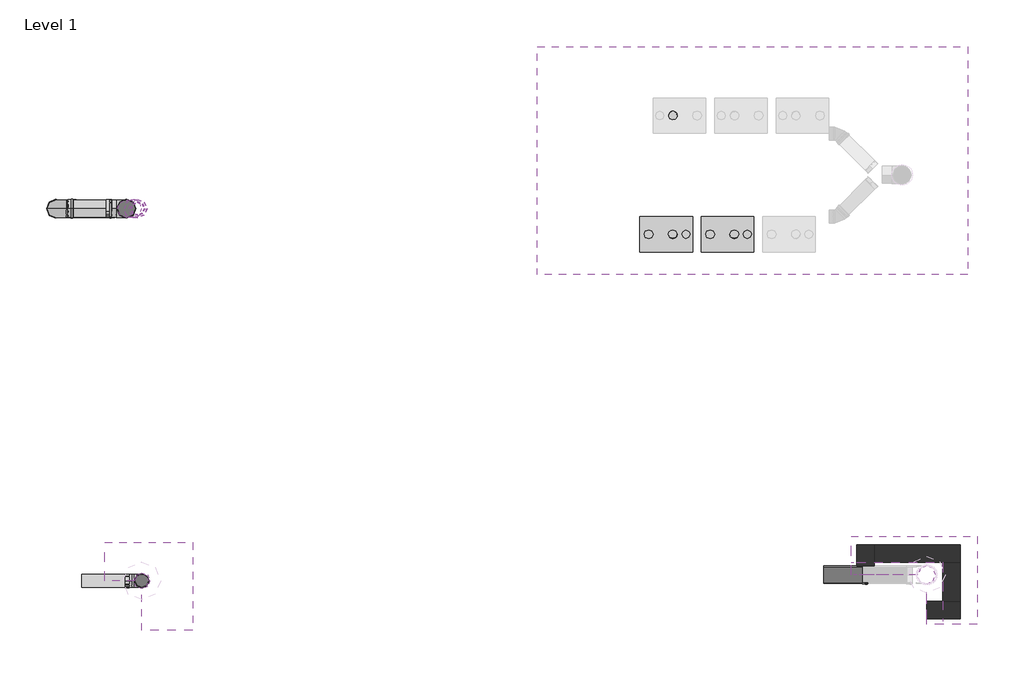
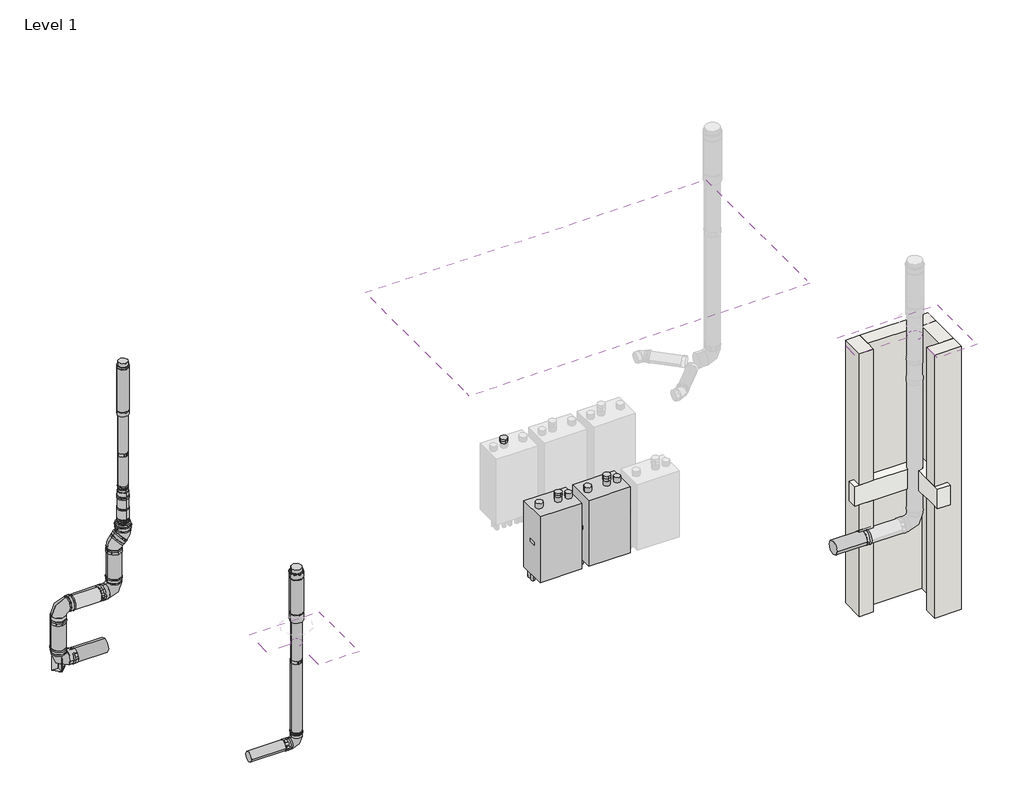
# One storey, part 1 of 2: 17 duct fittings, 4 walls, 3 duct segments, 3 roofs, 2 air terminals, 2 unitary equipment elements, 1 slab.
"""IFC4 building model written with IfcOpenShell, lengths in millimetres."""

from ifc_helpers import new_model, si_unit, point, frame, frame_2d, origin, place, context, project, spatial, polyline, circle_curve, ellipse_curve, trimmed, segment, composite_curve, outline, extrude, faceted_brep, transform, mapped, element, save
from ifc_brep_helpers import plane_surface, cylinder_surface, revolved_surface, advanced_brep
from components import air_terminal_94623e8e, air_terminal_eb749a6a, duct_fitting_fcce2ba4, duct_fitting_8dfe7da2, duct_fitting_345853f5, duct_fitting_ab07d6e0, duct_fitting_84fb14a7, duct_fitting_86b3afc8, duct_fitting_6345bc61, duct_fitting_f8f29cd0, duct_fitting_bf31f75c, duct_fitting_0e4c7d32, duct_fitting_4e1b977e, type_1_50a8d933

model = new_model("IFC4")

# Units and contexts
model_context = context("Model", 3, world=origin())
ifc_project = project(units=[si_unit("LENGTHUNIT", "METRE", prefix="MILLI")], contexts=[model_context])

# Site, building, storey
site = spatial("IfcSite", under=ifc_project)
building = spatial("IfcBuilding", under=site)
storey = spatial("IfcBuildingStorey", under=building, Name="Level 1", Elevation=0.0)

# Air terminals
placement = place(None, origin())
air_terminal_shape = air_terminal_94623e8e(model_context)
element("IfcAirTerminal", 1, ObjectType="RSFen_AIR_WPB_flue gas rooftop terminal_M&G : PP Black, ø130", at=placement, inside=storey, context=model_context, shape_type="MappedRepresentation", body=[
    mapped(air_terminal_shape, transform((-147.1567195, 6771.3861112, 3429.6005565), x_axis=(1.0, 0.0, 0.0), y_axis=(0.0, 1.0, 0.0), z_axis=(0.0, 0.0, 1.0))),
])
air_terminal_2_shape = air_terminal_eb749a6a(model_context)
element("IfcAirTerminal", 2, ObjectType="RSFen_AIR_WPB_flue gas rooftop terminal_M&G : PP Black, ø150", at=placement, inside=storey, context=model_context, shape_type="MappedRepresentation", body=[
    mapped(air_terminal_2_shape, transform((-100.8341645, 2531.0161204, 2850.0), x_axis=(1.0, 0.0, 0.0), y_axis=(0.0, 1.0, 0.0), z_axis=(0.0, 0.0, 1.0))),
])

# Duct fittings
duct_fitting_shape = duct_fitting_fcce2ba4(model_context)
element("IfcDuctFitting", 3, ObjectType="RSFen_DUF_UN_Twinline Supportbend_M&G : ø130 - 150 - 200", at=placement, inside=storey, context=model_context, shape_type="MappedRepresentation", body=[
    mapped(duct_fitting_shape, transform((-1077.8501537, 6771.3861112, 11.8802621), x_axis=(0.0, 0.0, -1.0), y_axis=(1.0, 0.0, 0.0), z_axis=(0.0, -1.0, 0.0))),
])
duct_fitting_2_shape = duct_fitting_8dfe7da2(model_context)
element("IfcDuctFitting", 4, ObjectType="RSFen_DUF_UN_Twinline Extension_M&G : ø130-150-200", at=placement, inside=storey, context=model_context, shape_type="MappedRepresentation", body=[
    mapped(duct_fitting_2_shape, transform((-411.1612493, 6771.3861112, 0.0), x_axis=(-1.0, 0.0, 0.0), y_axis=(0.0, 0.0, -1.0), z_axis=(0.0, -1.0, 0.0))),
])
element("IfcDuctFitting", 5, ObjectType="RSFen_DUF_UN_Twinline Extension_M&G : ø130-150-200", at=placement, inside=storey, context=model_context, shape_type="MappedRepresentation", body=[
    mapped(duct_fitting_2_shape, transform((-1077.8501537, 6771.3861112, 146.8802621), x_axis=(0.0, 0.0, 1.0), y_axis=(-1.0, 0.0, 0.0), z_axis=(0.0, -1.0, 0.0))),
])
element("IfcDuctFitting", 6, ObjectType="RSFen_DUF_UN_Twinline Extension_M&G : ø130-150-200", at=placement, inside=storey, context=model_context, shape_type="MappedRepresentation", body=[
    mapped(duct_fitting_2_shape, transform((-275.8501537, 6771.3861112, 948.8802621), x_axis=(0.0, 0.0, 1.0), y_axis=(-1.0, 0.0, 0.0), z_axis=(0.0, -1.0, 0.0))),
])
element("IfcDuctFitting", 7, ObjectType="RSFen_DUF_UN_Twinline Extension_M&G : ø130-150-200", at=placement, inside=storey, context=model_context, shape_type="MappedRepresentation", body=[
    mapped(duct_fitting_2_shape, transform((-942.8501537, 6771.3861112, 813.8802621), x_axis=(1.0, 0.0, 0.0), y_axis=(0.0, 0.0, -1.0), z_axis=(0.0, 1.0, 0.0))),
])
element("IfcDuctFitting", 8, ObjectType="RSFen_DUF_UN_Twinline Extension_M&G : ø130-150-200", at=placement, inside=storey, context=model_context, shape_type="MappedRepresentation", body=[
    mapped(duct_fitting_2_shape, transform((7666.4992982, 2600.0743938, 1178.3755805), x_axis=(1.0, 0.0, 0.0), y_axis=(0.0, 1.0, 0.0), z_axis=(0.0, 0.0, 1.0))),
])
duct_fitting_3_shape = duct_fitting_345853f5(model_context)
element("IfcDuctFitting", 9, ObjectType="RSFen_DUF_UN_Twinline Bend_M&G : ø130 - 150 - 200", at=placement, inside=storey, context=model_context, shape_type="MappedRepresentation", body=[
    mapped(duct_fitting_3_shape, transform((-1077.8501537, 6771.3861112, 813.8802621), x_axis=(0.0, 0.0, 1.0), y_axis=(1.0, 0.0, 0.0), z_axis=(0.0, 1.0, 0.0))),
])
element("IfcDuctFitting", 10, ObjectType="RSFen_DUF_UN_Twinline Bend_M&G : ø130 - 150 - 200", at=placement, inside=storey, context=model_context, shape_type="MappedRepresentation", body=[
    mapped(duct_fitting_3_shape, transform((-275.8501537, 6771.3861112, 813.8802621), x_axis=(1.0, 0.0, 0.0), y_axis=(0.0, 0.0, 1.0), z_axis=(0.0, -1.0, 0.0))),
])
duct_fitting_4_shape = duct_fitting_ab07d6e0(model_context)
element("IfcDuctFitting", 11, ObjectType="RSFen_DUF_UN_Twinline Bend_M&G : ø130 - 150 - 200", at=placement, inside=storey, context=model_context, shape_type="MappedRepresentation", body=[
    mapped(duct_fitting_4_shape, transform((-275.8501537, 6771.3861112, 1499.8802621), x_axis=(0.0, 0.0, 1.0), y_axis=(1.0, 0.0, 0.0), z_axis=(0.0, 1.0, 0.0))),
])
element("IfcDuctFitting", 12, ObjectType="RSFen_DUF_UN_Twinline Bend_M&G : ø130 - 150 - 200", at=placement, inside=storey, context=model_context, shape_type="MappedRepresentation", body=[
    mapped(duct_fitting_4_shape, transform((-147.1567195, 6771.3861112, 1628.5736962), x_axis=(0.707106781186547, 0.0, 0.707106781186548), y_axis=(-0.707106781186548, 0.0, 0.707106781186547), z_axis=(0.0, -1.0, 0.0))),
])
duct_fitting_5_shape = duct_fitting_84fb14a7(model_context)
element("IfcDuctFitting", 13, ObjectType="RSFen_DUF_UN_Twinline Reducer_M&G : ø080-100-150-200", at=placement, inside=storey, context=model_context, shape_type="MappedRepresentation", body=[
    mapped(duct_fitting_5_shape, transform((-147.1567195, 6771.3861112, 1699.5736962), x_axis=(0.0, 0.0, 1.0), y_axis=(-1.0, 0.0, 0.0), z_axis=(0.0, -1.0, 0.0))),
])
duct_fitting_6_shape = duct_fitting_86b3afc8(model_context)
element("IfcDuctFitting", 14, ObjectType="RSFen_DUF_UN_Twinline Adjuster_M&G : ø130-150", at=placement, inside=storey, context=model_context, shape_type="MappedRepresentation", body=[
    mapped(duct_fitting_6_shape, transform((-147.1567195, 6771.3861112, 1807.5736962), x_axis=(0.0, 0.0, 1.0), y_axis=(-1.0, 0.0, 0.0), z_axis=(0.0, -1.0, 0.0))),
])
duct_fitting_7_shape = duct_fitting_6345bc61(model_context)
element("IfcDuctFitting", 15, ObjectType="RSFen_DUF_UN_Twinline Reducer_M&G : ø080-100-150-200", at=placement, inside=storey, context=model_context, shape_type="MappedRepresentation", body=[
    mapped(duct_fitting_7_shape, transform((-147.1567195, 6771.3861112, 2161.4104027), x_axis=(0.0, 0.0, 1.0), y_axis=(-1.0, 0.0, 0.0), z_axis=(0.0, -1.0, 0.0))),
])
duct_fitting_8_shape = duct_fitting_f8f29cd0(model_context)
element("IfcDuctFitting", 16, ObjectType="RSFen_DUF_UN_Twinline Extension_M&G : ø130-150-200", at=placement, inside=storey, context=model_context, shape_type="MappedRepresentation", body=[
    mapped(duct_fitting_8_shape, transform((-147.1567195, 6771.3861112, 2312.4104027), x_axis=(0.0, 0.0, 1.0), y_axis=(-1.0, 0.0, 0.0), z_axis=(0.0, -1.0, 0.0))),
])
duct_fitting_9_shape = duct_fitting_bf31f75c(model_context)
element("IfcDuctFitting", 17, ObjectType="RSFen_DUF_UN_Twinline Extension_M&G : ø130-150-200", at=placement, inside=storey, context=model_context, shape_type="MappedRepresentation", body=[
    mapped(duct_fitting_9_shape, transform((-783.8341645, 2531.0161204, 1000.0370325), x_axis=(1.0, 0.0, 0.0), y_axis=(0.0, 1.0, 0.0), z_axis=(0.0, 0.0, 1.0))),
])
duct_fitting_10_shape = duct_fitting_0e4c7d32(model_context)
element("IfcDuctFitting", 18, ObjectType="RSFen_DUF_UN_Twinline Bend_M&G : ø130 - 150 - 200", at=placement, inside=storey, context=model_context, shape_type="MappedRepresentation", body=[
    mapped(duct_fitting_10_shape, transform((-100.8341645, 2531.0161204, 1000.0370325), x_axis=(1.0, 0.0, 0.0), y_axis=(0.0, 0.0, 1.0), z_axis=(0.0, -1.0, 0.0))),
])
duct_fitting_11_shape = duct_fitting_4e1b977e(model_context)
element("IfcDuctFitting", 19, ObjectType="RSFen_DUF_UN_Twinline Extension_M&G : ø130-150-200", at=placement, inside=storey, context=model_context, shape_type="MappedRepresentation", body=[
    mapped(duct_fitting_11_shape, transform((-100.8341645, 2531.0161204, 1126.0370325), x_axis=(0.0, 0.0, 1.0), y_axis=(-1.0, 0.0, 0.0), z_axis=(0.0, -1.0, 0.0))),
])

# Duct segments
element("IfcDuctSegment", 20, ObjectType="Flex - Round", at=placement, inside=storey, context=model_context, shape_type="AdvancedBrep", body=[
    advanced_brep(
    [(5896.5175995, 6480.135187, 225.0), (5946.2933643, 6530.3583528, 224.9172281), (5996.5165984, 6480.5826568, 225.0), (5946.7408335, 6430.359491, 225.0827719), (5896.5173851, 6480.1831014, 253.9439014), (5946.293186, 6530.4062674, 253.8611296), (5996.5163838, 6480.6306073, 253.9439014), (5946.7405831, 6430.4074052, 254.0266733), (5896.5303248, 6480.3204019, 282.9109259), (5946.7535876, 6430.5451242, 283.1244732), (5996.5293134, 6480.7677221, 282.8641168), (5946.3060506, 6530.5429998, 282.6505694)],
    [
        (0, 1, circle_curve(frame((5946.5170989, 6480.3589219, 225.0), z_axis=(7.407582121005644e-06, -0.0016554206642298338, -0.9999986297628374), x_axis=(-0.9999899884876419, -0.004474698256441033, 0.0)), 50.0)),
        (1, 2, circle_curve(frame((5946.5170989, 6480.3589219, 225.0), z_axis=(7.407582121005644e-06, -0.0016554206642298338, -0.9999986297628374), x_axis=(-0.9999899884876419, -0.004474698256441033, 0.0)), 50.0)),
        (2, 3, circle_curve(frame((5946.5170989, 6480.3589219, 225.0), z_axis=(7.407582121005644e-06, -0.0016554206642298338, -0.9999986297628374), x_axis=(-0.9999899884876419, -0.004474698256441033, 0.0)), 50.0)),
        (3, 0, circle_curve(frame((5946.5170989, 6480.3589219, 225.0), z_axis=(7.407582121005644e-06, -0.0016554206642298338, -0.9999986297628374), x_axis=(-0.9999899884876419, -0.004474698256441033, 0.0)), 50.0)),
        (0, 4),
        (4, 5, circle_curve(frame((5946.5168845, 6480.4068363, 253.9439014), z_axis=(7.407582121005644e-06, -0.0016554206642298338, -0.9999986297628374), x_axis=(-0.9999899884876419, -0.004474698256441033, 0.0)), 50.0)),
        (5, 1),
        (5, 6, circle_curve(frame((5946.5168845, 6480.4068363, 253.9439014), z_axis=(7.407582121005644e-06, -0.0016554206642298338, -0.9999986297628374), x_axis=(-0.9999899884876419, -0.004474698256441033, 0.0)), 50.0)),
        (6, 2),
        (6, 7, circle_curve(frame((5946.5168845, 6480.4068363, 253.9439014), z_axis=(7.407582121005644e-06, -0.0016554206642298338, -0.9999986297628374), x_axis=(-0.9999899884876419, -0.004474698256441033, 0.0)), 50.0)),
        (7, 3),
        (7, 4, circle_curve(frame((5946.5168845, 6480.4068363, 253.9439014), z_axis=(7.407582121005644e-06, -0.0016554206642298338, -0.9999986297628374), x_axis=(-0.9999899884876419, -0.004474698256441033, 0.0)), 50.0)),
        (8, 9, circle_curve(frame((5946.5298191, 6480.544062, 282.8875213), z_axis=(0.00044688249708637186, 0.004741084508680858, 0.999988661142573), x_axis=(-0.9999898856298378, -0.0044732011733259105, 0.0004680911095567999)), 50.0)),
        (9, 10, circle_curve(frame((5946.5298191, 6480.544062, 282.8875213), z_axis=(0.00044688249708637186, 0.004741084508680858, 0.999988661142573), x_axis=(-0.9999898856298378, -0.0044732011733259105, 0.0004680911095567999)), 50.0)),
        (10, 11, circle_curve(frame((5946.5298191, 6480.544062, 282.8875213), z_axis=(0.00044688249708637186, 0.004741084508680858, 0.999988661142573), x_axis=(-0.9999898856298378, -0.0044732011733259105, 0.0004680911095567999)), 50.0)),
        (11, 8, circle_curve(frame((5946.5298191, 6480.544062, 282.8875213), z_axis=(0.00044688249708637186, 0.004741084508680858, 0.999988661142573), x_axis=(-0.9999898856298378, -0.0044732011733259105, 0.0004680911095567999)), 50.0)),
        (4, 8),
        (11, 5),
        (10, 6),
        (9, 7),
    ],
    [
        plane_surface(frame((5946.5170989, 6430.3589904, 225.082771), z_axis=(7.407582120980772e-06, -0.001655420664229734, -0.9999986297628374), x_axis=(0.999999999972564, 1.226266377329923e-08, 7.407571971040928e-06))),
        cylinder_surface(frame((5946.5170989, 6480.3589219, 225.0), z_axis=(7.407582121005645e-06, -0.0016554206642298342, -0.9999986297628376), x_axis=(-0.9999899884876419, -0.004474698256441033, 0.0)), 50.0),
        plane_surface(frame((5946.5298191, 6430.544624, 283.1245756), z_axis=(0.00044688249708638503, 0.004741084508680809, 0.999988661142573), x_axis=(0.999999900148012, -2.118707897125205e-06, -0.0004468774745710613))),
        cylinder_surface(frame((5946.5168845, 6480.4068363, 253.9439014), z_axis=(-0.00044688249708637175, -0.004741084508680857, -0.9999886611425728), x_axis=(-0.9999898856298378, -0.0044732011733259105, 0.0004680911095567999)), 50.0),
    ],
    [
        (0, [[1, 2, 3, 4]]),
        (1, [[-1, 5, 6, 7]]),
        (1, [[-2, -7, 8, 9]]),
        (1, [[-3, -9, 10, 11]]),
        (1, [[-4, -11, 12, -5]]),
        (2, [[13, 14, 15, 16]]),
        (3, [[-6, 17, -16, 18]]),
        (3, [[-8, -18, -15, 19]]),
        (3, [[-10, -19, -14, 20]]),
        (3, [[-12, -20, -13, -17]]),
    ],
),
])
element("IfcDuctSegment", 21, ObjectType="Flex - Round", at=placement, inside=storey, context=model_context, shape_type="AdvancedBrep", body=[
    advanced_brep(
    [(6696.3633386, 6480.3589219, 224.9936438), (6646.3633456, 6430.3589485, 225.0515408), (6596.3633394, 6480.3589219, 225.0063562), (6646.3633325, 6530.3588953, 224.9484592), (6696.3679111, 6480.3959987, 260.962058), (6646.367883, 6430.3960253, 261.019955), (6596.3679119, 6480.3959637, 260.9747704), (6646.36794, 6530.3959722, 260.9168734), (6696.3888156, 6480.5440035, 296.9074077), (6646.3887628, 6530.5436384, 296.7306542), (6596.3888325, 6480.5441205, 296.9655492), (6646.3888852, 6430.5444856, 297.1423027)],
    [
        (0, 1, circle_curve(frame((6646.363339, 6480.3589219, 225.0), z_axis=(-0.000127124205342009, -0.001030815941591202, -0.9999994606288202), x_axis=(0.9999999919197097, 0.0, -0.00012712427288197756)), 50.0)),
        (1, 2, circle_curve(frame((6646.363339, 6480.3589219, 225.0), z_axis=(-0.000127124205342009, -0.001030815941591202, -0.9999994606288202), x_axis=(0.9999999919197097, 0.0, -0.00012712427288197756)), 50.0)),
        (2, 3, circle_curve(frame((6646.363339, 6480.3589219, 225.0), z_axis=(-0.000127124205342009, -0.001030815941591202, -0.9999994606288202), x_axis=(0.9999999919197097, 0.0, -0.00012712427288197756)), 50.0)),
        (3, 0, circle_curve(frame((6646.363339, 6480.3589219, 225.0), z_axis=(-0.000127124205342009, -0.001030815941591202, -0.9999994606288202), x_axis=(0.9999999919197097, 0.0, -0.00012712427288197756)), 50.0)),
        (0, 4),
        (4, 5, circle_curve(frame((6646.3679115, 6480.3959987, 260.9684142), z_axis=(-0.000127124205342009, -0.001030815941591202, -0.9999994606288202), x_axis=(0.9999999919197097, 0.0, -0.00012712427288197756)), 50.0)),
        (5, 1),
        (5, 6, circle_curve(frame((6646.3679115, 6480.3959987, 260.9684142), z_axis=(-0.000127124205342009, -0.001030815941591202, -0.9999994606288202), x_axis=(0.9999999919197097, 0.0, -0.00012712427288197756)), 50.0)),
        (6, 2),
        (6, 7, circle_curve(frame((6646.3679115, 6480.3959987, 260.9684142), z_axis=(-0.000127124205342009, -0.001030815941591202, -0.9999994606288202), x_axis=(0.9999999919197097, 0.0, -0.00012712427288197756)), 50.0)),
        (7, 3),
        (7, 4, circle_curve(frame((6646.3679115, 6480.3959987, 260.9684142), z_axis=(-0.000127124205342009, -0.001030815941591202, -0.9999994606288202), x_axis=(0.9999999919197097, 0.0, -0.00012712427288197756)), 50.0)),
        (8, 9, circle_curve(frame((6646.388824, 6480.544062, 296.9364785), z_axis=(0.0005814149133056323, 0.004116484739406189, 0.9999913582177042), x_axis=(0.9999998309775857, -1.1691909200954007e-06, -0.0005814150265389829)), 50.0)),
        (9, 10, circle_curve(frame((6646.388824, 6480.544062, 296.9364785), z_axis=(0.0005814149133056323, 0.004116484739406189, 0.9999913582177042), x_axis=(0.9999998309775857, -1.1691909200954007e-06, -0.0005814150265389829)), 50.0)),
        (10, 11, circle_curve(frame((6646.388824, 6480.544062, 296.9364785), z_axis=(0.0005814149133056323, 0.004116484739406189, 0.9999913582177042), x_axis=(0.9999998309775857, -1.1691909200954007e-06, -0.0005814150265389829)), 50.0)),
        (11, 8, circle_curve(frame((6646.388824, 6480.544062, 296.9364785), z_axis=(0.0005814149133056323, 0.004116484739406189, 0.9999913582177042), x_axis=(0.9999998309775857, -1.1691909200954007e-06, -0.0005814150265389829)), 50.0)),
        (4, 8),
        (11, 5),
        (10, 6),
        (9, 7),
    ],
    [
        plane_surface(frame((6646.363339, 6430.3589485, 225.0515408), z_axis=(-0.0001271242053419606, -0.001030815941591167, -0.9999994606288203), x_axis=(0.9999999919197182, -1.3104165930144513e-07, -0.00012712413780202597))),
        cylinder_surface(frame((6646.363339, 6480.3589219, 225.0), z_axis=(-0.000127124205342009, -0.001030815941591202, -0.9999994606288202), x_axis=(0.9999999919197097, 0.0, -0.00012712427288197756)), 50.0),
        plane_surface(frame((6646.388824, 6430.5444856, 297.1423027), z_axis=(0.0005814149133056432, 0.004116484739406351, 0.9999913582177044), x_axis=(0.9999998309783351, -2.393386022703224e-06, -0.0005814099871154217))),
        cylinder_surface(frame((6646.3679115, 6480.3959987, 260.9684142), z_axis=(-0.0005814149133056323, -0.004116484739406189, -0.9999913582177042), x_axis=(0.9999998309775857, -1.1691909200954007e-06, -0.0005814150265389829)), 50.0),
    ],
    [
        (0, [[1, 2, 3, 4]]),
        (1, [[-1, 5, 6, 7]]),
        (1, [[-2, -7, 8, 9]]),
        (1, [[-3, -9, 10, 11]]),
        (1, [[-4, -11, 12, -5]]),
        (2, [[13, 14, 15, 16]]),
        (3, [[-6, 17, -16, 18]]),
        (3, [[-8, -18, -15, 19]]),
        (3, [[-10, -19, -14, 20]]),
        (3, [[-12, -20, -13, -17]]),
    ],
),
])
element("IfcDuctSegment", 22, ObjectType="Flex - Round", at=placement, inside=storey, context=model_context, shape_type="AdvancedBrep", body=[
    advanced_brep(
    [(5997.1858741, 7824.0296158, 225.0), (5937.8078254, 7785.6348827, 224.6970154), (5899.4120021, 7845.0122265, 225.0), (5958.7900509, 7883.4069596, 225.3029846), (5997.1491935, 7823.8586931, 253.8481743), (5937.7712797, 7785.4645885, 253.4391195), (5899.3753124, 7844.8412612, 253.8553781), (5958.7532262, 7883.2353658, 254.2644329), (5997.0900216, 7823.5631569, 282.6957928), (5958.693822, 7882.9386692, 283.2253214), (5899.3161257, 7844.5456511, 282.7102002), (5937.7123253, 7785.1701389, 282.1806717)],
    [
        (0, 1, circle_curve(frame((5948.2989381, 7834.5209212, 225.0), z_axis=(0.0012714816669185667, 0.005924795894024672, -0.9999816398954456), x_axis=(0.9777387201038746, -0.20982610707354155, 0.0)), 50.0)),
        (1, 2, circle_curve(frame((5948.2989381, 7834.5209212, 225.0), z_axis=(0.0012714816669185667, 0.005924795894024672, -0.9999816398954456), x_axis=(0.9777387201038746, -0.20982610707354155, 0.0)), 50.0)),
        (2, 3, circle_curve(frame((5948.2989381, 7834.5209212, 225.0), z_axis=(0.0012714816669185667, 0.005924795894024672, -0.9999816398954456), x_axis=(0.9777387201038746, -0.20982610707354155, 0.0)), 50.0)),
        (3, 0, circle_curve(frame((5948.2989381, 7834.5209212, 225.0), z_axis=(0.0012714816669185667, 0.005924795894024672, -0.9999816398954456), x_axis=(0.9777387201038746, -0.20982610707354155, 0.0)), 50.0)),
        (0, 4),
        (4, 5, ellipse_curve(frame((5948.2622529, 7834.3499771, 253.8517762), z_axis=(0.0016612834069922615, 0.008084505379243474, -0.9999659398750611), x_axis=(-0.1776119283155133, -0.9840660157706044, -0.008251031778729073)), 50.0001204, 50.0)),
        (5, 1),
        (5, 6, ellipse_curve(frame((5948.2622529, 7834.3499771, 253.8517762), z_axis=(0.0016612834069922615, 0.008084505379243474, -0.9999659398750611), x_axis=(-0.1776119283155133, -0.9840660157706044, -0.008251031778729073)), 50.0001204, 50.0)),
        (6, 2),
        (6, 7, ellipse_curve(frame((5948.2622529, 7834.3499771, 253.8517762), z_axis=(0.0016612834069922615, 0.008084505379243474, -0.9999659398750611), x_axis=(-0.1776119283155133, -0.9840660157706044, -0.008251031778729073)), 50.0001204, 50.0)),
        (7, 3),
        (7, 4, ellipse_curve(frame((5948.2622529, 7834.3499771, 253.8517762), z_axis=(0.0016612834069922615, 0.008084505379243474, -0.9999659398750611), x_axis=(-0.1776119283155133, -0.9840660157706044, -0.008251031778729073)), 50.0001204, 50.0)),
        (8, 9, circle_curve(frame((5948.2030736, 7834.054404, 282.7029965), z_axis=(-0.002051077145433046, -0.010244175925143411, 0.9999454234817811), x_axis=(0.9777389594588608, -0.209824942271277, -0.00014407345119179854)), 50.0)),
        (9, 10, circle_curve(frame((5948.2030736, 7834.054404, 282.7029965), z_axis=(-0.002051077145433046, -0.010244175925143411, 0.9999454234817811), x_axis=(0.9777389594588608, -0.209824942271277, -0.00014407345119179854)), 50.0)),
        (10, 11, circle_curve(frame((5948.2030736, 7834.054404, 282.7029965), z_axis=(-0.002051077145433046, -0.010244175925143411, 0.9999454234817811), x_axis=(0.9777389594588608, -0.209824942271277, -0.00014407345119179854)), 50.0)),
        (11, 8, circle_curve(frame((5948.2030736, 7834.054404, 282.7029965), z_axis=(-0.002051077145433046, -0.010244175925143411, 0.9999454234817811), x_axis=(0.9777389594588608, -0.209824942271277, -0.00014407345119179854)), 50.0)),
        (4, 8),
        (11, 5),
        (10, 6),
        (9, 7),
    ],
    [
        plane_surface(frame((5948.2989381, 7784.5217988, 224.70376), z_axis=(0.0012714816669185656, 0.005924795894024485, -0.9999816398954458), x_axis=(0.9999991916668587, -7.533275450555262e-06, 0.0012714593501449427))),
        cylinder_surface(frame((5948.2989381, 7834.5209212, 225.0), z_axis=(0.001271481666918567, 0.005924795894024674, -0.9999816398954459), x_axis=(0.9777387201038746, -0.20982610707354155, 0.0)), 50.0),
        plane_surface(frame((5948.2030736, 7784.0570277, 282.1907866), z_axis=(-0.002051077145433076, -0.010244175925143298, 0.999945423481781), x_axis=(0.9999978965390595, -2.1011639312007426e-05, 0.0020509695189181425))),
        cylinder_surface(frame((5948.2622529, 7834.3499771, 253.8517762), z_axis=(0.002051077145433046, 0.010244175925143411, -0.9999454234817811), x_axis=(0.9777389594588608, -0.209824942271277, -0.00014407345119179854)), 50.0),
    ],
    [
        (0, [[1, 2, 3, 4]]),
        (1, [[-1, 5, 6, 7]]),
        (1, [[-2, -7, 8, 9]]),
        (1, [[-3, -9, 10, 11]]),
        (1, [[-4, -11, 12, -5]]),
        (2, [[13, 14, 15, 16]]),
        (3, [[-6, 17, -16, 18]]),
        (3, [[-8, -18, -15, 19]]),
        (3, [[-10, -19, -14, 20]]),
        (3, [[-12, -20, -13, -17]]),
    ],
),
])

# Roofs
element("IfcRoof", 23, ObjectType="Roof 1", at=placement, inside=storey, context=model_context, shape_type="SweptSolid", body=[
    extrude(outline(composite_curve([segment(polyline([(7976.1951233, 3036.0001908), (9416.1951233, 3036.0001908), (9416.1951233, 2036.0001908), (8838.4992982, 2036.0001908), (8838.4992982, 2498.0743938)]), True, "CONTINUOUS"), segment(trimmed(circle_curve(frame_2d((8838.4992982, 2600.0743938)), 102.0), [point((8838.4992982, 2498.0743938))], [point((8736.4992982, 2600.0743938))], True, "CARTESIAN"), True, "CONTINUOUS"), segment(polyline([(8736.4992982, 2600.0743938), (7976.1951233, 2600.0743938), (7976.1951233, 3036.0001908)]), True, "CONTINUOUS")], self_intersect=False)), frame((0.0, 0.0, 4000.0), z_axis=(0.0, 0.0, 1.0), x_axis=(1.0, 0.0, 0.0)), (0.0, 0.0, 1.0), 250.0),
])
element("IfcRoof", 24, ObjectType="Roof 1", at=placement, inside=storey, context=model_context, shape_type="SweptSolid", body=[
    extrude(outline(composite_curve([segment(polyline([(-523.1383394, 2966.9419173), (476.8616606, 2966.9419173), (476.8616606, 1966.9419173), (-100.8341645, 1966.9419173), (-100.8341645, 2451.0161204)]), True, "CONTINUOUS"), segment(trimmed(circle_curve(frame_2d((-100.8341645, 2531.0161204)), 80.0), [point((-100.8341645, 2451.0161204))], [point((-180.8341645, 2531.0161204))], True, "CARTESIAN"), True, "CONTINUOUS"), segment(polyline([(-180.8341645, 2531.0161204), (-523.1383394, 2531.0161204), (-523.1383394, 2966.9419173)]), True, "CONTINUOUS")], self_intersect=False)), frame((0.0, 0.0, 2500.0), z_axis=(0.0, 0.0, 1.0), x_axis=(1.0, 0.0, 0.0)), (0.0, 0.0, 1.0), 250.0),
])
element("IfcRoof", 25, ObjectType="Roof 1", at=placement, inside=storey, context=model_context, shape_type="AdvancedBrep", body=[
    advanced_brep(
    [(4404.3482795, 8620.0211926, 4274.8547277), (9304.3482795, 8620.0211926, 4274.8547277), (9304.3482795, 6163.4153017, 2554.7207645), (4404.3482795, 6163.4153017, 2554.7207645), (8659.2674434, 7157.881733, 3251.0536562), (8455.2674434, 7157.881733, 3251.0536562), (9304.3482795, 8620.0211926, 4580.0483749), (4404.3482795, 8620.0211926, 4580.0483749), (4404.3482795, 6020.0211926, 2759.5087755), (9304.3482795, 6020.0211926, 2759.5087755), (8455.2674434, 7157.881733, 3556.2473034), (8659.2674434, 7157.881733, 3556.2473034)],
    [
        (0, 1),
        (1, 2),
        (2, 3),
        (3, 0),
        (4, 5, ellipse_curve(frame((8557.2674434, 7157.881733, 3251.0536562), z_axis=(0.0, -0.5735764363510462, 0.8191520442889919), x_axis=(0.0, -0.8191520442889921, -0.5735764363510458)), 124.5190081, 102.0)),
        (5, 4, ellipse_curve(frame((8557.2674434, 7157.881733, 3251.0536562), z_axis=(0.0, -0.5735764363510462, 0.8191520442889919), x_axis=(0.0, -0.8191520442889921, -0.5735764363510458)), 124.5190081, 102.0)),
        (6, 7),
        (7, 8),
        (8, 9),
        (9, 6),
        (10, 11, ellipse_curve(frame((8557.2674434, 7157.881733, 3556.2473034), z_axis=(0.0, 0.5735764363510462, -0.8191520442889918), x_axis=(0.0, -0.8191520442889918, -0.573576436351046)), 124.5190081, 102.0)),
        (11, 10, ellipse_curve(frame((8557.2674434, 7157.881733, 3556.2473034), z_axis=(0.0, 0.5735764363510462, -0.8191520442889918), x_axis=(0.0, -0.8191520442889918, -0.573576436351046)), 124.5190081, 102.0)),
        (0, 7),
        (6, 1),
        (3, 8),
        (9, 2),
        (10, 5),
        (4, 11),
    ],
    [
        plane_surface(frame((4404.3482795, 6163.4153017, 2554.7207645), z_axis=(0.0, 0.5735764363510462, -0.8191520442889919), x_axis=(1.0, 0.0, 0.0))),
        plane_surface(frame((4404.3482795, 6020.0211926, 2759.5087755), z_axis=(0.0, -0.5735764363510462, 0.8191520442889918), x_axis=(1.0, 0.0, 0.0))),
        plane_surface(frame((9304.3482795, 8620.0211926, 0.0), z_axis=(0.0, 1.0, 0.0), x_axis=(-1.0, 0.0, 0.0))),
        plane_surface(frame((4404.3482795, 8620.0211926, 0.0), z_axis=(-1.0, 0.0, 0.0), x_axis=(0.0, -1.0, 0.0))),
        plane_surface(frame((9304.3482795, 6020.0211926, 0.0), z_axis=(1.0, 0.0, 0.0), x_axis=(0.0, 1.0, 0.0))),
        plane_surface(frame((4404.3482795, 6020.0211926, 2759.5087755), z_axis=(0.0, -0.8191520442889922, -0.5735764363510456), x_axis=(1.0, 0.0, 0.0))),
        revolved_surface(polyline([(8659.2674434, 7157.881733, 3179.632487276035), (8659.2674434, 7157.881733, 3627.668472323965)]), (8557.2674434, 7157.881733, 5592.7121801), (0.0, 0.0, -1.0)),
    ],
    [
        (0, [[1, 2, 3, 4], [5, 6]]),
        (1, [[7, 8, 9, 10], [11, 12]]),
        (2, [[-1, 13, -7, 14]]),
        (3, [[-4, 15, -8, -13]]),
        (4, [[-2, -14, -10, 16]]),
        (5, [[-3, -16, -9, -15]]),
        (6, [[17, -5, 18, -11]]),
        (6, [[-17, -12, -18, -6]]),
    ],
),
])

# Slab
element("IfcSlab", 26, ObjectType="Floor 1", at=placement, inside=storey, context=model_context, shape_type="AdvancedBrep", body=[
    advanced_brep(
    [(9021.4992982, 2740.0743938, 1700.0), (9021.4992982, 2300.0743938, 1700.0), (9021.4992982, 2100.0743938, 1700.0), (9021.4992982, 2036.0001908, 1700.0), (8838.4992982, 2036.0001908, 1700.0), (8838.4992982, 2100.0743938, 1700.0), (8838.4992982, 2300.0743938, 1700.0), (8838.4992982, 2498.0743938, 1700.0), (8736.4992982, 2600.0743938, 1700.0), (8241.4992982, 2600.0743938, 1700.0), (8041.4992982, 2600.0743938, 1700.0), (7976.1951233, 2600.0743938, 1700.0), (7976.1951233, 2740.0743938, 1700.0), (8041.4992982, 2740.0743938, 1700.0), (8241.4992982, 2740.0743938, 1700.0), (9021.4992982, 2740.0743938, 2000.0), (8241.4992982, 2740.0743938, 2000.0), (8041.4992982, 2740.0743938, 2000.0), (7976.1951233, 2740.0743938, 2000.0), (7976.1951233, 2600.0743938, 2000.0), (8041.4992982, 2600.0743938, 2000.0), (8241.4992982, 2600.0743938, 2000.0), (8736.4992982, 2600.0743938, 2000.0), (8838.4992982, 2498.0743938, 2000.0), (8838.4992982, 2300.0743938, 2000.0), (8838.4992982, 2100.0743938, 2000.0), (8838.4992982, 2036.0001908, 2000.0), (9021.4992982, 2036.0001908, 2000.0), (9021.4992982, 2100.0743938, 2000.0), (9021.4992982, 2300.0743938, 2000.0)],
    [
        (0, 1),
        (1, 2),
        (2, 3),
        (3, 4),
        (4, 5),
        (5, 6),
        (6, 7),
        (7, 8, circle_curve(frame((8838.4992982, 2600.0743938, 1700.0), z_axis=(0.0, 0.0, 1.0), x_axis=(1.0, 0.0, 0.0)), 102.0)),
        (8, 9),
        (9, 10),
        (10, 11),
        (11, 12),
        (12, 13),
        (13, 14),
        (14, 0),
        (15, 16),
        (16, 17),
        (17, 18),
        (18, 19),
        (19, 20),
        (20, 21),
        (21, 22),
        (22, 23, circle_curve(frame((8838.4992982, 2600.0743938, 2000.0), z_axis=(0.0, 0.0, -1.0), x_axis=(1.0, 0.0, 0.0)), 102.0)),
        (23, 24),
        (24, 25),
        (25, 26),
        (26, 27),
        (27, 28),
        (28, 29),
        (29, 15),
        (0, 15),
        (27, 3),
        (26, 4),
        (23, 7),
        (22, 8),
        (19, 11),
        (18, 12),
    ],
    [
        plane_surface(frame((9021.4992982, 3036.0001908, 1700.0), z_axis=(0.0, 0.0, -1.0), x_axis=(0.0, -1.0, 0.0))),
        plane_surface(frame((9021.4992982, 3036.0001908, 2000.0), z_axis=(0.0, 0.0, 1.0), x_axis=(0.0, 1.0, 0.0))),
        plane_surface(frame((9021.4992982, 2740.0743938, 1700.0), z_axis=(1.0, 0.0, 0.0), x_axis=(0.0, 0.0, 1.0))),
        plane_surface(frame((9021.4992982, 2036.0001908, 1700.0), z_axis=(0.0, -1.0, 0.0), x_axis=(0.0, 0.0, 1.0))),
        plane_surface(frame((8838.4992982, 2036.0001908, 1700.0), z_axis=(-1.0, 0.0, 0.0), x_axis=(0.0, 0.0, 1.0))),
        revolved_surface(polyline([(8940.4992982, 2600.0743938, 2000.0), (8940.4992982, 2600.0743938, 1700.0)]), (8838.4992982, 2600.0743938, 2000.0), (0.0, 0.0, 1.0)),
        plane_surface(frame((8736.4992982, 2600.0743938, 1700.0), z_axis=(0.0, -1.0, 0.0), x_axis=(0.0, 0.0, 1.0))),
        plane_surface(frame((7976.1951233, 2600.0743938, 1700.0), z_axis=(-1.0, 0.0, 0.0), x_axis=(0.0, 0.0, 1.0))),
        plane_surface(frame((7976.1951233, 2740.0743938, 1700.0), z_axis=(0.0, 1.0, 0.0), x_axis=(0.0, 0.0, 1.0))),
    ],
    [
        (0, [[1, 2, 3, 4, 5, 6, 7, 8, 9, 10, 11, 12, 13, 14, 15]]),
        (1, [[16, 17, 18, 19, 20, 21, 22, 23, 24, 25, 26, 27, 28, 29, 30]]),
        (2, [[-3, -2, -1, 31, -30, -29, -28, 32]]),
        (3, [[-4, -32, -27, 33]]),
        (4, [[-7, -6, -5, -33, -26, -25, -24, 34]]),
        (5, [[-8, -34, -23, 35]]),
        (6, [[-11, -10, -9, -35, -22, -21, -20, 36]]),
        (7, [[-12, -36, -19, 37]]),
        (8, [[-15, -14, -13, -37, -18, -17, -16, -31]]),
    ],
),
])

# Unitary equipment
type_1_shape = type_1_50a8d933(model_context)
element("IfcUnitaryEquipment", 27, ObjectType="RSFen_ME_UN_MC000066_Gasheating_UOB : Type 1", at=placement, inside=storey, context=model_context, shape_type="MappedRepresentation", body=[
    mapped(type_1_shape, transform((5871.5170989, 6680.3589219, 150.0), x_axis=(1.0, 0.0, 0.0), y_axis=(0.0, 1.0, 0.0), z_axis=(0.0, 0.0, 1.0))),
])
element("IfcUnitaryEquipment", 28, ObjectType="RSFen_ME_UN_MC000066_Gasheating_UOB : Type 1", at=placement, inside=storey, context=model_context, shape_type="MappedRepresentation", body=[
    mapped(type_1_shape, transform((6571.363339, 6680.3589219, 150.0), x_axis=(1.0, 0.0, 0.0), y_axis=(0.0, 1.0, 0.0), z_axis=(0.0, 0.0, 1.0))),
])

# Walls
element("IfcWall", 29, ObjectType="Wall 1", at=placement, inside=storey, context=model_context, shape_type="AdvancedBrep", body=[
    advanced_brep(
    [(8241.4992982, 2600.0743938, 0.0), (8241.4992982, 2740.0743938, 0.0), (8241.4992982, 2940.0743938, 0.0), (8241.4992982, 2940.0743938, 4000.0), (8241.4992982, 2740.0743938, 4000.0), (8241.4992982, 2600.0743938, 4000.0), (8241.4992982, 2600.0743938, 2000.0), (8241.4992982, 2740.0743938, 2000.0), (8241.4992982, 2740.0743938, 1700.0), (8241.4992982, 2600.0743938, 1700.0), (8241.4992982, 2600.0743938, 1280.3755805), (8241.4992982, 2600.0743938, 1076.3755805), (8041.4992982, 2940.0743938, 0.0), (8041.4992982, 2600.0743938, 0.0), (8041.4992982, 2600.0743938, 1076.3755805), (8041.4992982, 2600.0743938, 1280.3755805), (8041.4992982, 2600.0743938, 1700.0), (8041.4992982, 2740.0743938, 1700.0), (8041.4992982, 2740.0743938, 2000.0), (8041.4992982, 2600.0743938, 2000.0), (8041.4992982, 2600.0743938, 4000.0), (8041.4992982, 2940.0743938, 4000.0)],
    [
        (0, 1),
        (1, 2),
        (2, 3),
        (3, 4),
        (4, 5),
        (5, 6),
        (6, 7),
        (7, 8),
        (8, 9),
        (9, 10),
        (10, 11, circle_curve(frame((8241.4992982, 2600.0743938, 1178.3755805), z_axis=(-1.0, 0.0, 0.0), x_axis=(0.0, -1.0, 0.0)), 102.0)),
        (11, 0),
        (12, 13),
        (13, 14),
        (14, 15, circle_curve(frame((8041.4992982, 2600.0743938, 1178.3755805), z_axis=(1.0, 0.0, 0.0), x_axis=(0.0, -1.0, 0.0)), 102.0)),
        (15, 16),
        (16, 17),
        (17, 18),
        (18, 19),
        (19, 20),
        (20, 21),
        (21, 12),
        (2, 12),
        (21, 3),
        (0, 13),
        (15, 10),
        (9, 16),
        (5, 20),
        (19, 6),
        (14, 11),
        (8, 17),
        (18, 7),
    ],
    [
        plane_surface(frame((8241.4992982, 2498.0743938, 1178.3755805), z_axis=(1.0, 0.0, 0.0), x_axis=(0.0, 0.0, 1.0))),
        plane_surface(frame((8041.4992982, 2498.0743938, 1178.3755805), z_axis=(-1.0, 0.0, 0.0), x_axis=(0.0, 0.0, -1.0))),
        plane_surface(frame((8141.4992982, 2940.0743938, 0.0), z_axis=(0.0, 1.0, 0.0), x_axis=(-1.0, 0.0, 0.0))),
        plane_surface(frame((8241.4992982, 2600.0743938, 0.0), z_axis=(0.0, 0.0, -1.0), x_axis=(-1.0, 0.0, 0.0))),
        plane_surface(frame((8241.4992982, 2600.0743938, 4000.0), z_axis=(0.0, -1.0, 0.0), x_axis=(-1.0, 0.0, 0.0))),
        revolved_surface(polyline([(8041.4992982, 2498.0743938, 1178.3755805), (8241.4992982, 2498.0743938, 1178.3755805)]), (8041.4992982, 2600.0743938, 1178.3755805), (-1.0, 0.0, 0.0)),
        plane_surface(frame((8241.4992982, 2600.0743938, 1076.3755805), z_axis=(0.0, -1.0, 0.0), x_axis=(-1.0, 0.0, 0.0))),
        plane_surface(frame((8416.1951233, 3036.0001908, 4000.0), z_axis=(0.0, 0.0, 1.0), x_axis=(1.0, 0.0, 0.0))),
        plane_surface(frame((9021.4992982, 3036.0001908, 1700.0), z_axis=(0.0, 0.0, 1.0), x_axis=(0.0, -1.0, 0.0))),
        plane_surface(frame((9021.4992982, 3036.0001908, 2000.0), z_axis=(0.0, 0.0, -1.0), x_axis=(0.0, 1.0, 0.0))),
        plane_surface(frame((7976.1951233, 2740.0743938, 1700.0), z_axis=(0.0, -1.0, 0.0), x_axis=(0.0, 0.0, 1.0))),
    ],
    [
        (0, [[1, 2, 3, 4, 5, 6, 7, 8, 9, 10, 11, 12]]),
        (1, [[13, 14, 15, 16, 17, 18, 19, 20, 21, 22]]),
        (2, [[-3, 23, -22, 24]]),
        (3, [[-2, -1, 25, -13, -23]]),
        (4, [[26, -10, 27, -16]]),
        (4, [[28, -20, 29, -6]]),
        (5, [[-11, -26, -15, 30]]),
        (6, [[-12, -30, -14, -25]]),
        (7, [[-5, -4, -24, -21, -28]]),
        (8, [[31, -17, -27, -9]]),
        (9, [[32, -7, -29, -19]]),
        (10, [[-31, -8, -32, -18]]),
    ],
),
])
element("IfcWall", 30, ObjectType="Wall 1", at=placement, inside=storey, context=model_context, shape_type="Brep", body=[
    faceted_brep([(8241.4992982, 2740.0743938, 0.0), (9021.4992982, 2740.0743938, 0.0), (9221.4992982, 2740.0743938, 0.0), (9221.4992982, 2740.0743938, 4000.0), (9021.4992982, 2740.0743938, 4000.0), (8241.4992982, 2740.0743938, 4000.0), (8241.4992982, 2940.0743938, 0.0), (8241.4992982, 2940.0743938, 4000.0), (9221.4992982, 2940.0743938, 4000.0), (9221.4992982, 2940.0743938, 0.0)], [[[0, 1, 2, 3, 4, 5]], [[6, 7, 8, 9]], [[2, 1, 0, 6, 9]], [[0, 5, 7, 6]], [[3, 2, 9, 8]], [[5, 4, 3, 8, 7]]]),
])
element("IfcWall", 31, ObjectType="Wall 1", at=placement, inside=storey, context=model_context, shape_type="Brep", body=[
    faceted_brep([(9021.4992982, 2740.0743938, 0.0), (9021.4992982, 2300.0743938, 0.0), (9021.4992982, 2300.0743938, 4000.0), (9021.4992982, 2740.0743938, 4000.0), (9021.4992982, 2740.0743938, 2000.0), (9021.4992982, 2740.0743938, 1700.0), (9221.4992982, 2740.0743938, 0.0), (9221.4992982, 2740.0743938, 4000.0), (9221.4992982, 2300.0743938, 4000.0), (9221.4992982, 2300.0743938, 0.0)], [[[0, 1, 2, 3, 4, 5]], [[6, 7, 8, 9]], [[1, 0, 6, 9]], [[0, 5, 4, 3, 7, 6]], [[2, 1, 9, 8]], [[3, 2, 8, 7]]]),
])
element("IfcWall", 32, ObjectType="Wall 1", at=placement, inside=storey, context=model_context, shape_type="Brep", body=[
    faceted_brep([(9221.4992982, 2300.0743938, 0.0), (9021.4992982, 2300.0743938, 0.0), (8838.4992982, 2300.0743938, 0.0), (8838.4992982, 2300.0743938, 1700.0), (9021.4992982, 2300.0743938, 1700.0), (9021.4992982, 2300.0743938, 2000.0), (8838.4992982, 2300.0743938, 2000.0), (8838.4992982, 2300.0743938, 4000.0), (9021.4992982, 2300.0743938, 4000.0), (9221.4992982, 2300.0743938, 4000.0), (8838.4992982, 2100.0743938, 0.0), (9221.4992982, 2100.0743938, 0.0), (9221.4992982, 2100.0743938, 4000.0), (8838.4992982, 2100.0743938, 4000.0), (8838.4992982, 2100.0743938, 2000.0), (9021.4992982, 2100.0743938, 2000.0), (9021.4992982, 2100.0743938, 1700.0), (8838.4992982, 2100.0743938, 1700.0)], [[[0, 1, 2, 3, 4, 5, 6, 7, 8, 9]], [[10, 11, 12, 13, 14, 15, 16, 17]], [[2, 1, 0, 11, 10]], [[2, 10, 17, 3]], [[13, 7, 6, 14]], [[0, 9, 12, 11]], [[9, 8, 7, 13, 12]], [[16, 4, 3, 17]], [[5, 15, 14, 6]], [[4, 16, 15, 5]]]),
])

save(model, "model.ifc")
